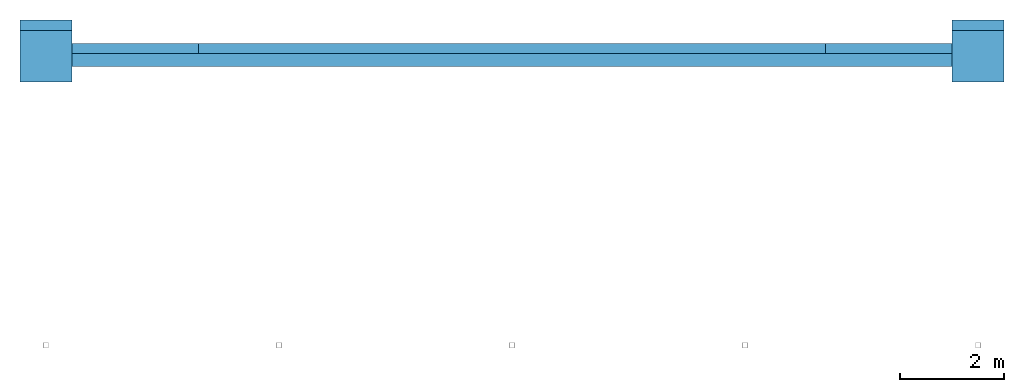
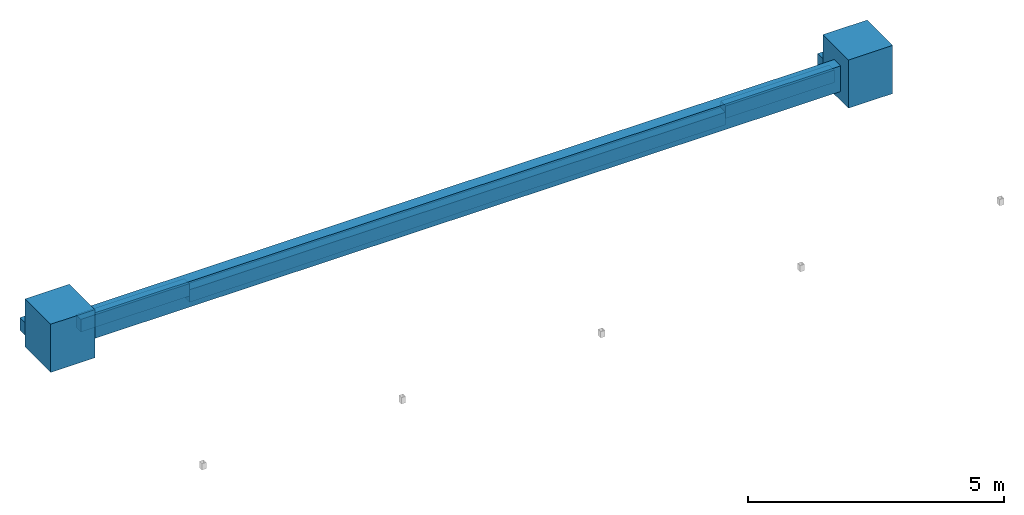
# One storey, part 3 of 3: 8 walls.
"""IFC2X3 building model written with IfcOpenShell, lengths in millimetres."""

from ifc_helpers import new_model, entity, si_unit, converted_unit, derived_unit, direction, frame, origin_with_axes, place, context, subcontext, project, spatial, faceted_brep, material, type_object, element, save


model = new_model("IFC2X3")

# Units and contexts
model_context = context("Model", 3, precision=0.01, world=frame((0.0, 4.29681676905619e-09, 0.0)), true_north=direction((4.01073788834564e-13, 1.0)))
plan_context = context("Plan", 3, precision=0.01, world=frame((0.0, 4.29681676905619e-09, 0.0)), true_north=direction((4.01073788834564e-13, 1.0)))
body_context = subcontext(model_context, "Body", "Model", "MODEL_VIEW")
ifc_project = project(units=[converted_unit("PLANEANGLEUNIT", "DEGREE", entity("IfcPositiveLengthMeasure", 0.0174532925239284), si_unit("PLANEANGLEUNIT", "RADIAN"), dimensions=[0, 0, 0, 0, 0, 0, 0]), si_unit("AREAUNIT", "SQUARE_METRE"), si_unit("LENGTHUNIT", "METRE", prefix="MILLI"), si_unit("MASSUNIT", "GRAM", prefix="KILO"), si_unit("POWERUNIT", "WATT"), si_unit("PRESSUREUNIT", "PASCAL", prefix="KILO"), si_unit("FORCEUNIT", "NEWTON", prefix="KILO"), si_unit("ELECTRICVOLTAGEUNIT", "VOLT"), si_unit("ELECTRICCURRENTUNIT", "AMPERE"), si_unit("THERMODYNAMICTEMPERATUREUNIT", "DEGREE_CELSIUS"), si_unit("TIMEUNIT", "SECOND"), si_unit("VOLUMEUNIT", "CUBIC_METRE"), derived_unit("LINEARVELOCITYUNIT", [(si_unit("LENGTHUNIT", "METRE"), 1), (si_unit("TIMEUNIT", "SECOND"), -1)]), derived_unit("VOLUMETRICFLOWRATEUNIT", [(si_unit("VOLUMEUNIT", "CUBIC_METRE"), 1), (si_unit("TIMEUNIT", "SECOND"), -1)]), derived_unit("THERMALTRANSMITTANCEUNIT", [(si_unit("POWERUNIT", "WATT"), 1), (si_unit("THERMODYNAMICTEMPERATUREUNIT", "KELVIN"), -1), (si_unit("AREAUNIT", "SQUARE_METRE"), -1)]), derived_unit("SOUNDPRESSUREUNIT", [(si_unit("PRESSUREUNIT", "PASCAL"), 1)])], contexts=[model_context, plan_context])

# Site, building, storey
site_placement = place(None, frame((0.0, -4.29681676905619e-09, 0.0), z_axis=(0.0, 0.0, 1.0), x_axis=(1.0, 0.0, 0.0)))
site = spatial("IfcSite", under=ifc_project, at=site_placement, Name="Gardermoen", CompositionType="ELEMENT")
building_placement = place(site_placement, frame((0.0, 4.29681676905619e-09, 0.0), z_axis=(0.0, 0.0, 1.0), x_axis=(1.0, 0.0, 0.0)))
building = spatial("IfcBuilding", under=site, at=building_placement, Name="TI", CompositionType="ELEMENT")
storey_placement = place(building_placement, origin_with_axes())
storey = spatial("IfcBuildingStorey", under=building, at=storey_placement, Name="D", CompositionType="ELEMENT", Elevation=0.0)

# Walls
ifc_material = material(Name="CONCRETE/C35/45")
wall_type_1 = type_object("IfcWallType", Name="300*200", PredefinedType="NOTDEFINED")
wall_1_placement = place(storey_placement, frame((585950.128404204, 575650.0, 209960.0), z_axis=(0.0, 0.0, 1.0), x_axis=(1.0, 0.0, 0.0)))
element("IfcWall", 1, at=wall_1_placement, inside=storey, type_object=wall_type_1, material=ifc_material, Name="PLASSTØPTVEGG", ObjectType="300*200", context=body_context, shape_type="Brep", body=[
    faceted_brep([(0.0, 100.0, -150.0), (0.0, 100.0, 150.0), (12100.3115957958, 100.0, 150.0), (12100.3115957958, 100.0, -150.0), (0.0, -100.0, 150.0), (12100.3115957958, -100.0, 150.0), (0.0, -100.0, -150.0), (12100.3115957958, -100.0, -150.0)], [[[0, 1, 2, 3]], [[1, 4, 5, 2]], [[4, 6, 7, 5]], [[6, 0, 3, 7]], [[5, 7, 3, 2]], [[6, 4, 1, 0]]]),
])
wall_2_placement = place(storey_placement, frame((598050.44, 575650.0, 210110.0), z_axis=(0.0, 0.0, 1.0), x_axis=(1.0, 0.0, 0.0)))
element("IfcWall", 2, at=wall_2_placement, inside=storey, type_object=wall_type_1, material=ifc_material, Name="PLASSTØPTVEGG", ObjectType="300*200", context=body_context, shape_type="Brep", body=[
    faceted_brep([(0.0, 100.0, -150.0), (0.0, 100.0, 150.0), (2449.5845176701, 100.0, 150.0), (2449.5845176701, 100.0, -150.0), (0.0, -100.0, 150.0), (2449.5845176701, -100.0, 150.0), (0.0, -100.0, -150.0), (2449.5845176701, -100.0, -150.0)], [[[0, 1, 2, 3]], [[1, 4, 5, 2]], [[4, 6, 7, 5]], [[6, 0, 3, 7]], [[5, 7, 3, 2]], [[6, 4, 1, 0]]]),
])
for number, where, z_axis, x_axis in (
    (3, (600500.022845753, 576100.0, 210110.0), (0.0, 0.0, 1.0), (1.0, 0.0, 0.0)),
    (4, (582500.022845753, 576100.0, 210110.0), (0.0, 0.0, 1.0), (1.0, 0.0, 0.0)),
):
    element("IfcWall", number, at=place(storey_placement, frame(where, z_axis=z_axis, x_axis=x_axis)), inside=storey, type_object=wall_type_1, material=ifc_material, Name="PLASSTØPTVEGG", ObjectType="300*200", context=body_context, shape_type="Brep", body=[
        faceted_brep([(0.0, 100.0, -150.0), (0.0, 100.0, 150.0), (1000.00167191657, 100.0, 150.0), (1000.00167191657, 100.0, -150.0), (0.0, -100.0, 150.0), (1000.00167191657, -100.0, 150.0), (0.0, -100.0, -150.0), (1000.00167191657, -100.0, -150.0)], [[[0, 1, 2, 3]], [[1, 4, 5, 2]], [[4, 6, 7, 5]], [[6, 0, 3, 7]], [[5, 7, 3, 2]], [[6, 4, 1, 0]]]),
    ])
wall_3_placement = place(storey_placement, frame((583500.022845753, 575650.0, 210110.0), z_axis=(0.0, 0.0, 1.0), x_axis=(1.0, 0.0, 0.0)))
element("IfcWall", 5, at=wall_3_placement, inside=storey, type_object=wall_type_1, material=ifc_material, Name="PLASSTØPTVEGG", ObjectType="300*200", context=body_context, shape_type="Brep", body=[
    faceted_brep([(0.0, 100.0, -150.0), (0.0, 100.0, 150.0), (2449.5845176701, 100.0, 150.0), (2449.5845176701, 100.0, -150.0), (0.0, -100.0, 150.0), (2449.5845176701, -100.0, 150.0), (0.0, -100.0, -150.0), (2449.5845176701, -100.0, -150.0)], [[[0, 1, 2, 3]], [[1, 4, 5, 2]], [[4, 6, 7, 5]], [[6, 0, 3, 7]], [[5, 7, 3, 2]], [[6, 4, 1, 0]]]),
])
wall_type_2 = type_object("IfcWallType", Name="1000*1000", PredefinedType="NOTDEFINED")
for number, where, z_axis, x_axis in (
    (6, (601000.02, 575500.0, 209680.0), (0.0, 1.0, 0.0), (0.0, 0.0, 1.0)),
    (7, (583000.02, 575500.0, 209680.0), (0.0, 1.0, 0.0), (0.0, 0.0, 1.0)),
):
    element("IfcWall", number, at=place(storey_placement, frame(where, z_axis=z_axis, x_axis=x_axis)), inside=storey, type_object=wall_type_2, material=ifc_material, Name="PLASSTØPTVEGG", ObjectType="1000*1000", context=body_context, shape_type="Brep", body=[
        faceted_brep([(-6.95581547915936e-09, 500.000000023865, -500.0), (-6.95581547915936e-09, 500.000000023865, 500.0), (1150.0, 500.0, 500.0), (1150.0, 500.0, -500.0), (6.92671164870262e-09, -500.000000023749, 500.0), (1150.0, -500.0, 500.0), (6.92671164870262e-09, -500.000000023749, -500.0), (1150.0, -500.0, -500.0)], [[[0, 1, 2, 3]], [[1, 4, 5, 2]], [[4, 6, 7, 5]], [[6, 0, 3, 7]], [[5, 7, 3, 2]], [[6, 4, 1, 0]]]),
    ])
wall_type_3 = type_object("IfcWallType", Name="5330*250", PredefinedType="NOTDEFINED")
wall_4_placement = place(storey_placement, frame((600500.01999987, 575425.0, 207845.0), z_axis=(0.0, 0.0, 1.0), x_axis=(-0.999999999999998, 5.80000057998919e-08, 0.0)))
element("IfcWall", 8, at=wall_4_placement, inside=storey, type_object=wall_type_3, Name="PLASSTØPTVEGG", ObjectType="5330*250", context=body_context, shape_type="Brep", body=[
    faceted_brep([(0.0, 125.0, 2055.0), (16999.9951272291, 125.0, 2055.0), (16999.9951272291, 125.0, 2665.0), (0.0, 125.0, 2665.0), (16999.9951272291, -125.0, 2665.0), (0.0, -125.0, 2665.0), (16999.9951272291, -125.0, 2055.0), (0.0, -125.0, 2055.0)], [[[0, 1, 2, 3]], [[2, 4, 5, 3]], [[6, 7, 5, 4]], [[1, 6, 4, 2]], [[7, 0, 3, 5]], [[7, 6, 1, 0]]], orient=[[False], [False], [False], [False], [False], [False]]),
])

save(model, "model.ifc")
